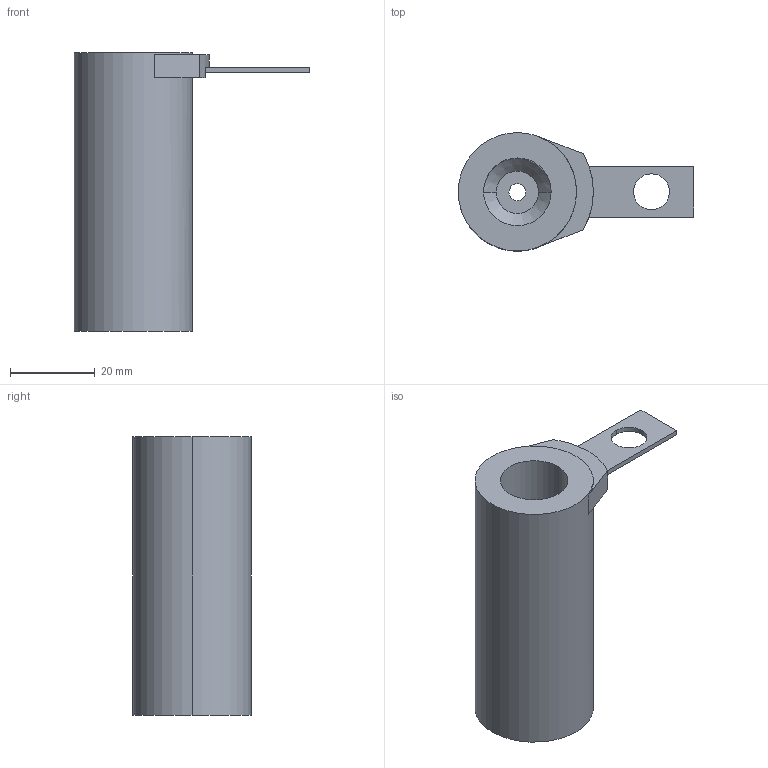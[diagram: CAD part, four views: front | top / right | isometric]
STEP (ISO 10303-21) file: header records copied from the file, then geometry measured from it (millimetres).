
FILE_DESCRIPTION(/* description */ (''),/* implementation_level */ '2;1');
FILE_NAME(/* name */ '3d_tus16-66_06257_r00.stp',/* time_stamp */ '2011-01-10T14:08:54+09:00',/* author */ ('MISUMI'),/* organization */ (''),/* preprocessor_version */ 'ST-DEVELOPER v11',/* originating_system */ 'UGS - NX 5.0',/* authorisation */ '');
FILE_SCHEMA (('CONFIG_CONTROL_DESIGN'));
Length unit declared in the file: millimetre
Products named in the file (1): 3d_tus16-66_06257_r00
Bounding box: 55.75 x 28 x 66 mm (x, y, z)
Volume: 29410.4 mm3; surface area: 10925.9 mm2
Topology: 2 solids, 2 shells, 28 faces, 67 edges, 44 vertices
Faces by surface type: plane 17, cylinder 9, cone 2
Entity records: 915 total; most frequent: DIRECTION 153, CARTESIAN_POINT 140, ORIENTED_EDGE 134, EDGE_CURVE 67, AXIS2_PLACEMENT_3D 57, VERTEX_POINT 44, LINE 39, VECTOR 39
